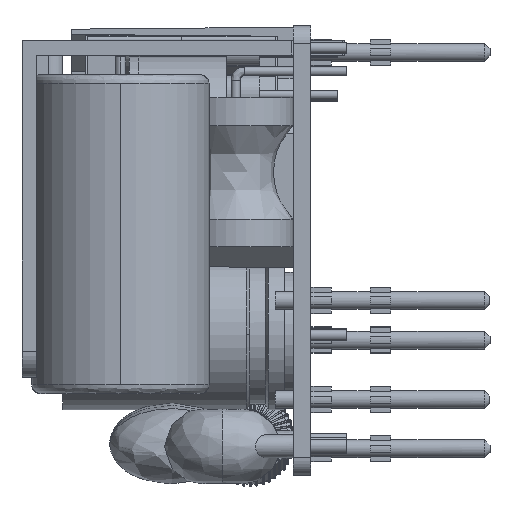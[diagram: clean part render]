
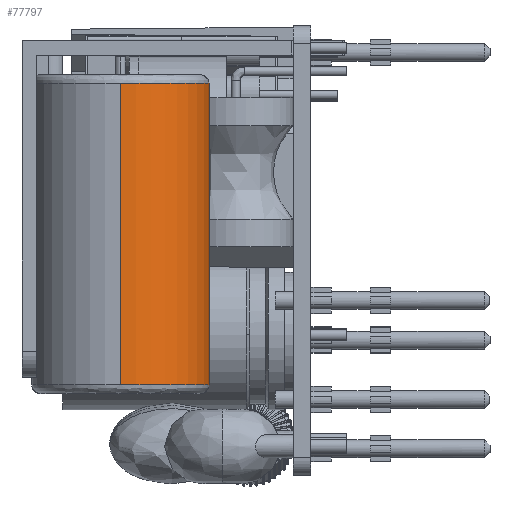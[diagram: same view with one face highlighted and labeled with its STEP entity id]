
A CAD part, left-side view. The second image highlights one B-rep face of the part: STEP entity #77797.
In plain terms, the highlighted cylindrical face has radius 5 mm (diameter 10 mm), a partial arc.
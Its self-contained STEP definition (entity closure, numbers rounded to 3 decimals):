
#411 = DIRECTION ( 'NONE',  ( -1., 0., 0. ) ) ;
#1464 = LINE ( 'NONE', #81041, #58509 ) ;
#2673 = ORIENTED_EDGE ( 'NONE', *, *, #37188, .T. ) ;
#4265 = DIRECTION ( 'NONE',  ( 0., 0., -1. ) ) ;
#7690 = CARTESIAN_POINT ( 'NONE',  ( -25.639, 10.227, 48.03 ) ) ;
#8037 = VERTEX_POINT ( 'NONE', #64852 ) ;
#9898 = CARTESIAN_POINT ( 'NONE',  ( -15.639, 10.227, 47.53 ) ) ;
#11401 = CARTESIAN_POINT ( 'NONE',  ( -20.639, 5.227, 30.53 ) ) ;
#18247 = AXIS2_PLACEMENT_3D ( 'NONE', #64920, #22098, #71948 ) ;
#19071 = EDGE_CURVE ( 'NONE', #27116, #54055, #49453, .T. ) ;
#21335 = CARTESIAN_POINT ( 'NONE',  ( -25.639, 10.227, 30.53 ) ) ;
#22052 = CARTESIAN_POINT ( 'NONE',  ( -15.639, 10.227, 30.53 ) ) ;
#22098 = DIRECTION ( 'NONE',  ( 0., 0., -1. ) ) ;
#22577 = FACE_OUTER_BOUND ( 'NONE', #72504, .T. ) ;
#23604 = LINE ( 'NONE', #7690, #40411 ) ;
#24378 = ORIENTED_EDGE ( 'NONE', *, *, #32570, .T. ) ;
#27116 = VERTEX_POINT ( 'NONE', #21335 ) ;
#27323 = EDGE_CURVE ( 'NONE', #61119, #45628, #1464, .T. ) ;
#27662 = CARTESIAN_POINT ( 'NONE',  ( -20.639, 10.227, 47.53 ) ) ;
#31753 = ORIENTED_EDGE ( 'NONE', *, *, #52887, .T. ) ;
#31894 = CIRCLE ( 'NONE', #18247, 5. ) ;
#32570 = EDGE_CURVE ( 'NONE', #8037, #27116, #23604, .T. ) ;
#32657 = CYLINDRICAL_SURFACE ( 'NONE', #47754, 5. ) ;
#34880 = DIRECTION ( 'NONE',  ( -1., 0., 0. ) ) ;
#37188 = EDGE_CURVE ( 'NONE', #56705, #8037, #38368, .T. ) ;
#38368 = CIRCLE ( 'NONE', #76042, 5. ) ;
#39112 = CARTESIAN_POINT ( 'NONE',  ( -20.639, 5.227, 47.53 ) ) ;
#39894 = CARTESIAN_POINT ( 'NONE',  ( -20.639, 10.227, 48.03 ) ) ;
#40411 = VECTOR ( 'NONE', #57762, 1000. ) ;
#41087 = DIRECTION ( 'NONE',  ( 0., 0., 1. ) ) ;
#43328 = DIRECTION ( 'NONE',  ( 0., 0., 1. ) ) ;
#45229 = ORIENTED_EDGE ( 'NONE', *, *, #81902, .T. ) ;
#45628 = VERTEX_POINT ( 'NONE', #22052 ) ;
#45810 = DIRECTION ( 'NONE',  ( 0., 0., -1. ) ) ;
#46880 = AXIS2_PLACEMENT_3D ( 'NONE', #85623, #43328, #411 ) ;
#47754 = AXIS2_PLACEMENT_3D ( 'NONE', #39894, #4265, #82666 ) ;
#49453 = CIRCLE ( 'NONE', #58053, 5. ) ;
#52887 = EDGE_CURVE ( 'NONE', #54055, #45628, #62420, .T. ) ;
#54055 = VERTEX_POINT ( 'NONE', #11401 ) ;
#56705 = VERTEX_POINT ( 'NONE', #39112 ) ;
#57762 = DIRECTION ( 'NONE',  ( 0., 0., -1. ) ) ;
#58053 = AXIS2_PLACEMENT_3D ( 'NONE', #83516, #41087, #90543 ) ;
#58509 = VECTOR ( 'NONE', #45810, 1000. ) ;
#61119 = VERTEX_POINT ( 'NONE', #9898 ) ;
#62420 = CIRCLE ( 'NONE', #46880, 5. ) ;
#64852 = CARTESIAN_POINT ( 'NONE',  ( -25.639, 10.227, 47.53 ) ) ;
#64920 = CARTESIAN_POINT ( 'NONE',  ( -20.639, 10.227, 47.53 ) ) ;
#68268 = ORIENTED_EDGE ( 'NONE', *, *, #19071, .T. ) ;
#71948 = DIRECTION ( 'NONE',  ( -1., 0., 0. ) ) ;
#72504 = EDGE_LOOP ( 'NONE', ( #86642, #45229, #2673, #24378, #68268, #31753 ) ) ;
#76042 = AXIS2_PLACEMENT_3D ( 'NONE', #27662, #77386, #34880 ) ;
#77386 = DIRECTION ( 'NONE',  ( 0., 0., -1. ) ) ;
#77797 = ADVANCED_FACE ( 'NONE', ( #22577 ), #32657, .T. ) ;
#81041 = CARTESIAN_POINT ( 'NONE',  ( -15.639, 10.227, 48.03 ) ) ;
#81902 = EDGE_CURVE ( 'NONE', #61119, #56705, #31894, .T. ) ;
#82666 = DIRECTION ( 'NONE',  ( -1., 0., 0. ) ) ;
#83516 = CARTESIAN_POINT ( 'NONE',  ( -20.639, 10.227, 30.53 ) ) ;
#85623 = CARTESIAN_POINT ( 'NONE',  ( -20.639, 10.227, 30.53 ) ) ;
#86642 = ORIENTED_EDGE ( 'NONE', *, *, #27323, .F. ) ;
#90543 = DIRECTION ( 'NONE',  ( -1., 0., 0. ) ) ;
